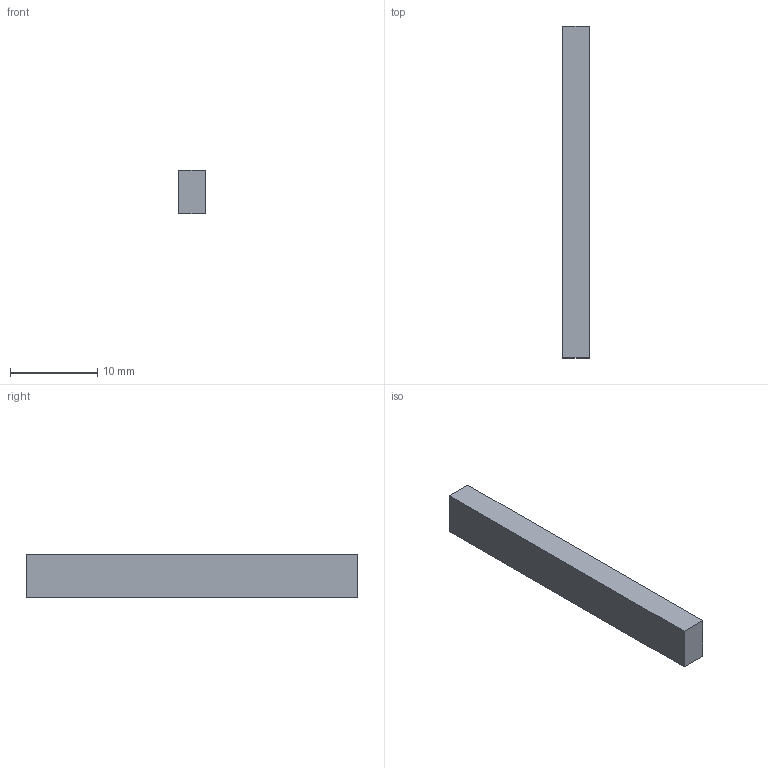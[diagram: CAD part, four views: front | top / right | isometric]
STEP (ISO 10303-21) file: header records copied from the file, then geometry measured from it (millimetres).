
FILE_DESCRIPTION(('Open CASCADE Model'),'2;1');
FILE_NAME('Open CASCADE Shape Model','2026-10-04T02:31:44',('Author'),( 'Open CASCADE'),'Open CASCADE STEP processor 8.0','Open CASCADE 8.0' ,'Unknown');
FILE_SCHEMA(('AUTOMOTIVE_DESIGN { 1 0 10303 214 1 1 1 1 }'));
Length unit declared in the file: millimetre
Products named in the file (1): Open CASCADE STEP translator 8.0 321
Bounding box: 3 x 38 x 5 mm (x, y, z)
Volume: 570 mm3; surface area: 638 mm2
Topology: 1 solids, 1 shells, 6 faces, 12 edges, 8 vertices
Faces by surface type: plane 6
Entity records: 322 total; most frequent: CARTESIAN_POINT 51, DIRECTION 50, LINE 36, VECTOR 36, ORIENTED_EDGE 24, PCURVE 24, DEFINITIONAL_REPRESENTATION 24, EDGE_CURVE 12
